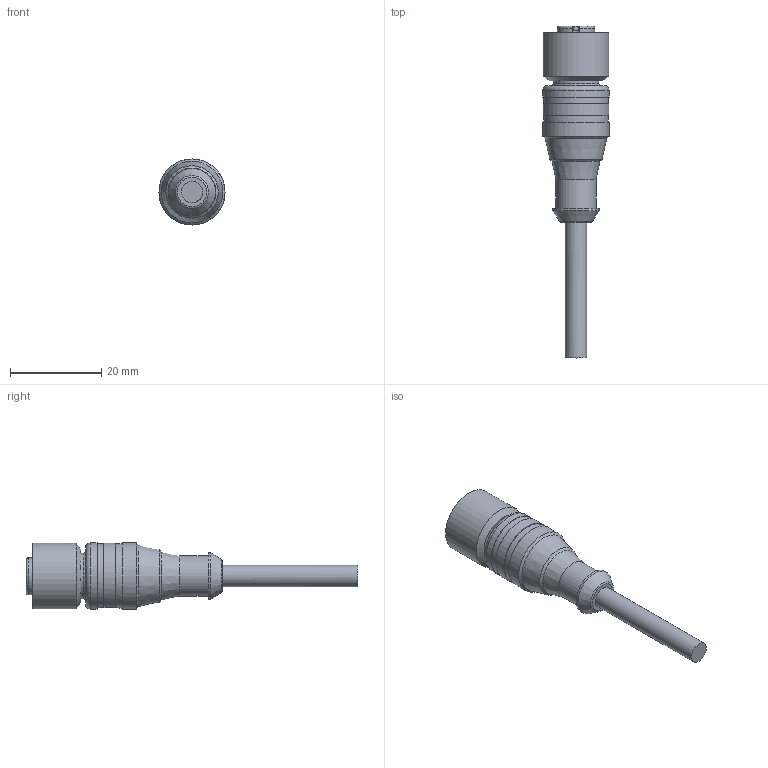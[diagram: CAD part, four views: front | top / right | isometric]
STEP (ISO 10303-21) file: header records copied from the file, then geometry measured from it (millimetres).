
FILE_DESCRIPTION( ( 'Unknown' ), '1' );
FILE_NAME( 'C:/Users/txr10011/Documents/1_in Bearbeitung/151016/Hüllmodelle/RKT 4_225_xxM.stp', 'Unknown', ( 'Unknown' ), ( 'Unknown' ), 'PSStep 17.0.49', 'Unknown', ' ' );
FILE_SCHEMA( ( 'AUTOMOTIVE_DESIGN { 1 0 10303 214 1 1 1 1 }' ) );
Length unit declared in the file: millimetre
Products named in the file (1): STL 225
Bounding box: 14.5 x 72.86 x 14.5 mm (x, y, z)
Volume: 5361.2 mm3; surface area: 3124.3 mm2
Topology: 1 solids, 1 shells, 115 faces, 287 edges, 189 vertices
Faces by surface type: plane 62, cylinder 29, cone 13, torus 6, extrusion 5
Full cylindrical faces by diameter (mm): 1.1 x4, 2 x1, 4.7 x1, 8.8 x1, 10 x1, 10.3 x1, 10.8 x1, 11.05 x1, 12.2 x1, 14.2 x2, 14.5 x3
Entity records: 4667 total; most frequent: CARTESIAN_POINT 1191, DIRECTION 522, ORIENTED_EDGE 474, EDGE_CURVE 237, AXIS2_PLACEMENT_3D 196, VERTEX_POINT 173, EDGE_LOOP 165, FACE_OUTER_BOUND 135
